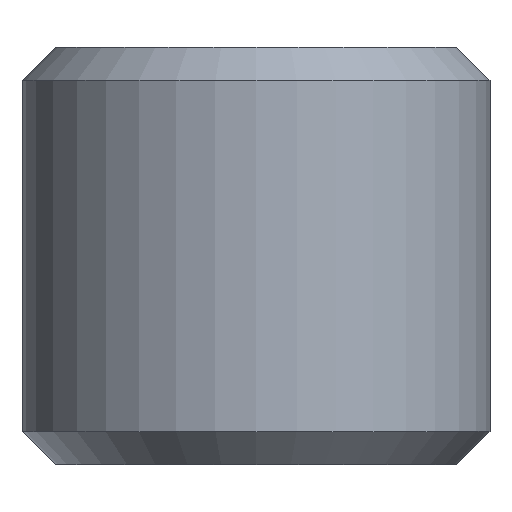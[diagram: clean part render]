
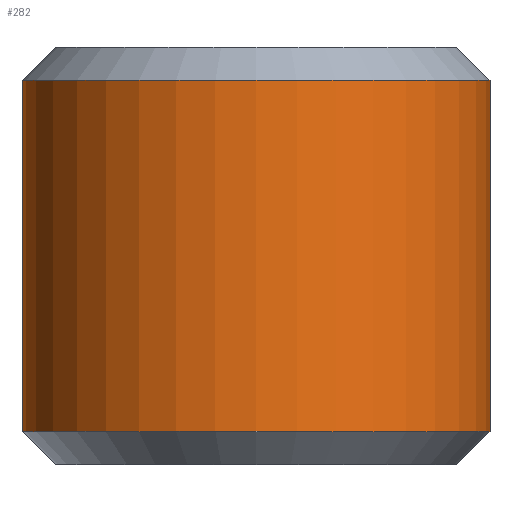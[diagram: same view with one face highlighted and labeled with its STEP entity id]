
A CAD part, front view. The second image highlights one B-rep face of the part: STEP entity #282.
In plain terms, the highlighted cylindrical face has radius 3.556 mm (diameter 7.112 mm), a partial arc.
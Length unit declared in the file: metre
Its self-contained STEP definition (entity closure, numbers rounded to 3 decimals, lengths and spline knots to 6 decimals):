
#30=CIRCLE('',#318,0.003556);
#31=CIRCLE('',#319,0.003556);
#52=ORIENTED_EDGE('',*,*,#123,.F.);
#53=ORIENTED_EDGE('',*,*,#124,.T.);
#54=ORIENTED_EDGE('',*,*,#120,.T.);
#55=ORIENTED_EDGE('',*,*,#125,.T.);
#120=EDGE_CURVE('',#156,#157,#178,.T.);
#123=EDGE_CURVE('',#158,#159,#181,.T.);
#124=EDGE_CURVE('',#158,#156,#30,.F.);
#125=EDGE_CURVE('',#157,#159,#31,.T.);
#156=VERTEX_POINT('',#455);
#157=VERTEX_POINT('',#456);
#158=VERTEX_POINT('',#461);
#159=VERTEX_POINT('',#462);
#178=LINE('',#454,#198);
#181=LINE('',#460,#201);
#198=VECTOR('',#361,1.);
#201=VECTOR('',#366,1.);
#218=EDGE_LOOP('',(#52,#53,#54,#55));
#248=FACE_BOUND('',#218,.T.);
#277=CYLINDRICAL_SURFACE('',#317,0.003556);
#282=ADVANCED_FACE('',(#248),#277,.T.);
#317=AXIS2_PLACEMENT_3D('',#459,#364,#365);
#318=AXIS2_PLACEMENT_3D('',#463,#367,#368);
#319=AXIS2_PLACEMENT_3D('',#464,#369,#370);
#361=DIRECTION('',(0.,0.,-1.));
#364=DIRECTION('',(0.,0.,-1.));
#365=DIRECTION('',(-1.,0.,0.));
#366=DIRECTION('',(0.,0.,-1.));
#367=DIRECTION('',(0.,0.,1.));
#368=DIRECTION('',(1.,0.,0.));
#369=DIRECTION('',(0.,0.,1.));
#370=DIRECTION('',(1.,0.,0.));
#454=CARTESIAN_POINT('',(-0.003556,0.,0.00635));
#455=CARTESIAN_POINT('',(-0.003556,0.,0.005842));
#456=CARTESIAN_POINT('',(-0.003556,0.,0.000508));
#459=CARTESIAN_POINT('',(0.,0.,0.00635));
#460=CARTESIAN_POINT('',(0.003556,0.,0.00635));
#461=CARTESIAN_POINT('',(0.003556,0.,0.005842));
#462=CARTESIAN_POINT('',(0.003556,0.,0.000508));
#463=CARTESIAN_POINT('',(0.,0.,0.005842));
#464=CARTESIAN_POINT('',(0.,0.,0.000508));
